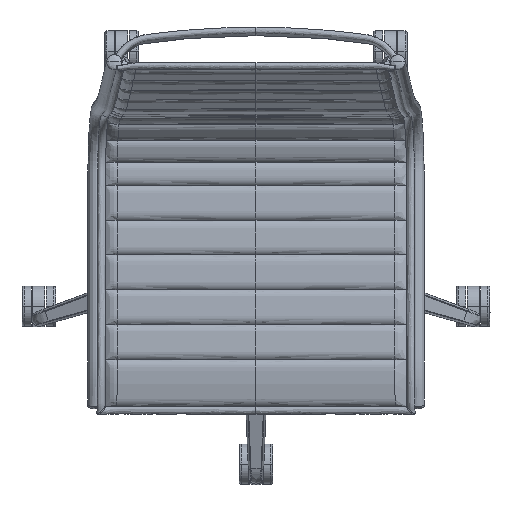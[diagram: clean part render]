
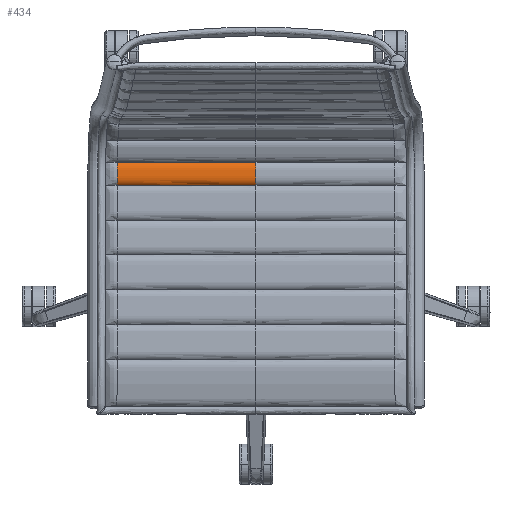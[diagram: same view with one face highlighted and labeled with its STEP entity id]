
A CAD part, top view. The second image highlights one B-rep face of the part: STEP entity #434.
In plain terms, the highlighted free-form (B-spline) face has degree [1, 3] with [2, 22] control points.
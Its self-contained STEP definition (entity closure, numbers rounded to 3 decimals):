
#118=B_SPLINE_SURFACE_WITH_KNOTS('',1,3,((#12095,#12096,#12097,#12098,#12099,
#12100,#12101,#12102,#12103,#12104,#12105,#12106,#12107,#12108,#12109,#12110,
#12111,#12112,#12113,#12114,#12115,#12116),(#12117,#12118,#12119,#12120,
#12121,#12122,#12123,#12124,#12125,#12126,#12127,#12128,#12129,#12130,#12131,
#12132,#12133,#12134,#12135,#12136,#12137,#12138)),.UNSPECIFIED.,.F.,.F.,
 .F.,(2,2),(4,3,3,3,3,3,3,4),(0.,266.163),(0.,4.786,
9.818,15.612,19.005,22.423,27.882,
37.45),.UNSPECIFIED.);
#434=ADVANCED_FACE('',(#895),#118,.T.);
#895=FACE_OUTER_BOUND('',#1356,.T.);
#1356=EDGE_LOOP('',(#2401,#2402,#2403,#2404));
#2401=ORIENTED_EDGE('',*,*,#4031,.T.);
#2402=ORIENTED_EDGE('',*,*,#4029,.T.);
#2403=ORIENTED_EDGE('',*,*,#4030,.F.);
#2404=ORIENTED_EDGE('',*,*,#4032,.F.);
#4029=EDGE_CURVE('',#6033,#6032,#4892,.T.);
#4030=EDGE_CURVE('',#6034,#6032,#4893,.T.);
#4031=EDGE_CURVE('',#6035,#6033,#4894,.T.);
#4032=EDGE_CURVE('',#6035,#6034,#4895,.T.);
#4892=B_SPLINE_CURVE_WITH_KNOTS('',1,(#17749,#17750),.UNSPECIFIED.,.F.,
 .F.,(2,2),(-206.185,0.),.UNSPECIFIED.);
#4893=B_SPLINE_CURVE_WITH_KNOTS('',3,(#17751,#17752,#17753,#17754,#17755,
#17756,#17757,#17758,#17759,#17760,#17761,#17762,#17763,#17764,#17765,#17766,
#17767,#17768,#17769,#17770,#17771,#17772),.UNSPECIFIED.,.F.,.F.,(4,3,3,
3,3,3,3,4),(0.,4.786,9.818,15.612,19.005,
22.423,27.882,37.45),.UNSPECIFIED.);
#4894=B_SPLINE_CURVE_WITH_KNOTS('',3,(#17773,#17774,#17775,#17776,#17777,
#17778,#17779,#17780,#17781,#17782,#17783,#17784,#17785,#17786,#17787,#17788,
#17789,#17790,#17791,#17792,#17793,#17794),.UNSPECIFIED.,.F.,.F.,(4,3,3,
3,3,3,3,4),(0.,4.781,9.811,15.605,18.997,
22.415,27.875,37.437),.UNSPECIFIED.);
#4895=B_SPLINE_CURVE_WITH_KNOTS('',1,(#17795,#17796),.UNSPECIFIED.,.F.,
 .F.,(2,2),(-206.288,0.),.UNSPECIFIED.);
#6032=VERTEX_POINT('',#17111);
#6033=VERTEX_POINT('',#17112);
#6034=VERTEX_POINT('',#17113);
#6035=VERTEX_POINT('',#17114);
#12095=CARTESIAN_POINT('',(-206.288,92.932,465.755));
#12096=CARTESIAN_POINT('',(-206.201,93.965,466.956));
#12097=CARTESIAN_POINT('',(-206.125,95.216,467.972));
#12098=CARTESIAN_POINT('',(-206.065,96.608,468.732));
#12099=CARTESIAN_POINT('',(-206.002,98.072,469.532));
#12100=CARTESIAN_POINT('',(-205.958,99.688,470.047));
#12101=CARTESIAN_POINT('',(-205.929,101.329,470.33));
#12102=CARTESIAN_POINT('',(-205.896,103.231,470.657));
#12103=CARTESIAN_POINT('',(-205.883,105.171,470.673));
#12104=CARTESIAN_POINT('',(-205.88,107.09,470.544));
#12105=CARTESIAN_POINT('',(-205.879,108.218,470.468));
#12106=CARTESIAN_POINT('',(-205.881,109.343,470.343));
#12107=CARTESIAN_POINT('',(-205.88,110.47,470.251));
#12108=CARTESIAN_POINT('',(-205.88,111.605,470.16));
#12109=CARTESIAN_POINT('',(-205.877,112.743,470.103));
#12110=CARTESIAN_POINT('',(-205.877,113.878,470.008));
#12111=CARTESIAN_POINT('',(-205.876,115.687,469.857));
#12112=CARTESIAN_POINT('',(-205.882,117.495,469.607));
#12113=CARTESIAN_POINT('',(-205.906,119.244,469.106));
#12114=CARTESIAN_POINT('',(-205.946,122.257,468.243));
#12115=CARTESIAN_POINT('',(-206.039,125.105,466.631));
#12116=CARTESIAN_POINT('',(-206.185,127.221,464.29));
#12117=CARTESIAN_POINT('',(59.875,92.932,465.755));
#12118=CARTESIAN_POINT('',(59.962,93.965,466.956));
#12119=CARTESIAN_POINT('',(60.038,95.216,467.972));
#12120=CARTESIAN_POINT('',(60.098,96.608,468.732));
#12121=CARTESIAN_POINT('',(60.161,98.072,469.532));
#12122=CARTESIAN_POINT('',(60.205,99.688,470.047));
#12123=CARTESIAN_POINT('',(60.234,101.329,470.33));
#12124=CARTESIAN_POINT('',(60.268,103.231,470.657));
#12125=CARTESIAN_POINT('',(60.28,105.171,470.673));
#12126=CARTESIAN_POINT('',(60.283,107.09,470.544));
#12127=CARTESIAN_POINT('',(60.284,108.218,470.468));
#12128=CARTESIAN_POINT('',(60.282,109.343,470.343));
#12129=CARTESIAN_POINT('',(60.283,110.47,470.251));
#12130=CARTESIAN_POINT('',(60.283,111.605,470.16));
#12131=CARTESIAN_POINT('',(60.286,112.743,470.103));
#12132=CARTESIAN_POINT('',(60.287,113.878,470.008));
#12133=CARTESIAN_POINT('',(60.287,115.687,469.857));
#12134=CARTESIAN_POINT('',(60.281,117.495,469.607));
#12135=CARTESIAN_POINT('',(60.257,119.244,469.106));
#12136=CARTESIAN_POINT('',(60.217,122.257,468.243));
#12137=CARTESIAN_POINT('',(60.124,125.105,466.631));
#12138=CARTESIAN_POINT('',(59.978,127.221,464.29));
#17111=CARTESIAN_POINT('',(-206.185,127.221,464.29));
#17112=CARTESIAN_POINT('',(0.,127.221,464.29));
#17113=CARTESIAN_POINT('',(-206.288,92.932,465.755));
#17114=CARTESIAN_POINT('',(0.,92.932,465.755));
#17749=CARTESIAN_POINT('',(0.,127.221,464.29));
#17750=CARTESIAN_POINT('',(-206.185,127.221,464.29));
#17751=CARTESIAN_POINT('',(-206.288,92.932,465.755));
#17752=CARTESIAN_POINT('',(-206.201,93.965,466.956));
#17753=CARTESIAN_POINT('',(-206.125,95.216,467.972));
#17754=CARTESIAN_POINT('',(-206.065,96.608,468.732));
#17755=CARTESIAN_POINT('',(-206.002,98.072,469.532));
#17756=CARTESIAN_POINT('',(-205.958,99.688,470.047));
#17757=CARTESIAN_POINT('',(-205.929,101.329,470.33));
#17758=CARTESIAN_POINT('',(-205.896,103.231,470.657));
#17759=CARTESIAN_POINT('',(-205.883,105.171,470.673));
#17760=CARTESIAN_POINT('',(-205.88,107.09,470.544));
#17761=CARTESIAN_POINT('',(-205.879,108.218,470.468));
#17762=CARTESIAN_POINT('',(-205.881,109.343,470.343));
#17763=CARTESIAN_POINT('',(-205.88,110.47,470.251));
#17764=CARTESIAN_POINT('',(-205.88,111.605,470.16));
#17765=CARTESIAN_POINT('',(-205.877,112.743,470.103));
#17766=CARTESIAN_POINT('',(-205.877,113.878,470.008));
#17767=CARTESIAN_POINT('',(-205.876,115.687,469.857));
#17768=CARTESIAN_POINT('',(-205.882,117.495,469.607));
#17769=CARTESIAN_POINT('',(-205.906,119.244,469.106));
#17770=CARTESIAN_POINT('',(-205.946,122.257,468.243));
#17771=CARTESIAN_POINT('',(-206.039,125.105,466.631));
#17772=CARTESIAN_POINT('',(-206.185,127.221,464.29));
#17773=CARTESIAN_POINT('',(0.,92.932,465.755));
#17774=CARTESIAN_POINT('',(0.,93.966,466.956));
#17775=CARTESIAN_POINT('',(0.,95.217,467.972));
#17776=CARTESIAN_POINT('',(0.,96.608,468.732));
#17777=CARTESIAN_POINT('',(0.,98.073,469.532));
#17778=CARTESIAN_POINT('',(0.,99.689,470.047));
#17779=CARTESIAN_POINT('',(0.,101.329,470.33));
#17780=CARTESIAN_POINT('',(0.,103.232,470.657));
#17781=CARTESIAN_POINT('',(0.,105.171,470.673));
#17782=CARTESIAN_POINT('',(0.,107.09,470.544));
#17783=CARTESIAN_POINT('',(0.,108.218,470.468));
#17784=CARTESIAN_POINT('',(0.,109.343,470.343));
#17785=CARTESIAN_POINT('',(0.,110.47,470.251));
#17786=CARTESIAN_POINT('',(0.,111.605,470.16));
#17787=CARTESIAN_POINT('',(0.,112.743,470.103));
#17788=CARTESIAN_POINT('',(0.,113.878,470.008));
#17789=CARTESIAN_POINT('',(0.,115.686,469.857));
#17790=CARTESIAN_POINT('',(0.,117.495,469.607));
#17791=CARTESIAN_POINT('',(0.,119.244,469.106));
#17792=CARTESIAN_POINT('',(0.,122.255,468.244));
#17793=CARTESIAN_POINT('',(0.,125.104,466.632));
#17794=CARTESIAN_POINT('',(0.,127.221,464.29));
#17795=CARTESIAN_POINT('',(0.,92.932,465.755));
#17796=CARTESIAN_POINT('',(-206.288,92.932,465.755));
